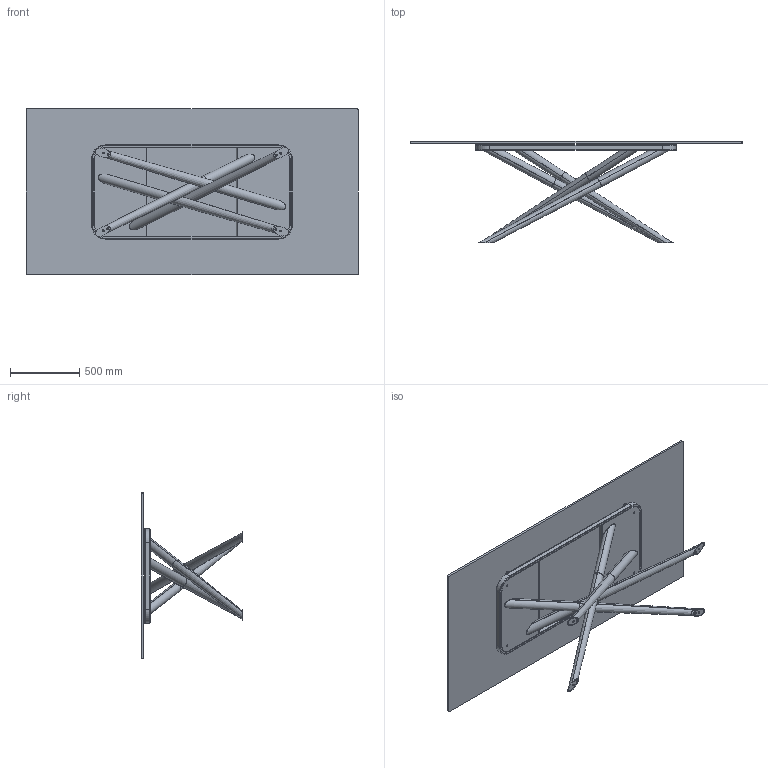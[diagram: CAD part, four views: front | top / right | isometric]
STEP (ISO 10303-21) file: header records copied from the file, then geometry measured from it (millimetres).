
FILE_DESCRIPTION (( 'STEP AP203' ), '1' );
FILE_NAME ('BA23G.STEP', '2024-08-08T06:06:18', ( '' ), ( '' ), 'SwSTEP 2.0', 'SolidWorks 2022', '' );
FILE_SCHEMA (( 'CONFIG_CONTROL_DESIGN' ));
Length unit declared in the file: millimetre
Products named in the file (9): 434070-00-PIEDINO TPV GOMMA NERO D. 30x8max18; M6xXXmm_HEX_M6x30mm HEX; BAB100000-00-BALY BASE GREZZA L240 rettangolare; BAB100000_01-00-Gambe saldate BALY 240_Default<A macchina>; BA23G; TR Fastenings Ltd-M6_M6; C2XCRXX-00-Piani Rettangolari Cristallo_23 2400x1200; BAB100000_02-00-piede per baly 240; BAB100000_03-00-Telaio BALY L240_Default<A macchina>
Assembly tree (24 placements, depth 3):
  BA23G
    C2XCRXX-00-Piani Rettangolari Cristallo_23 2400x1200
    BAB100000-00-BALY BASE GREZZA L240 rettangolare
      BAB100000_01-00-Gambe saldate BALY 240_Default<A macchina>
      BAB100000_03-00-Telaio BALY L240_Default<A macchina>
      BAB100000_02-00-piede per baly 240  x4
      TR Fastenings Ltd-M6_M6  x2
      M6xXXmm_HEX_M6x30mm HEX  x8
    434070-00-PIEDINO TPV GOMMA NERO D. 30x8max18  x6
Bounding box: 2400 x 734 x 1200 mm (x, y, z)
Volume: 49048595.3 mm3; surface area: 10113858.4 mm2
Topology: 39 solids, 39 shells, 684 faces, 1380 edges, 768 vertices
Faces by surface type: plane 314, cylinder 192, cone 88, torus 72, bspline 18
Entity records: 10329 total; most frequent: CARTESIAN_POINT 1739, DIRECTION 1632, ORIENTED_EDGE 1396, EDGE_CURVE 698, AXIS2_PLACEMENT_3D 636, VERTEX_POINT 399, EDGE_LOOP 373, VECTOR 360
